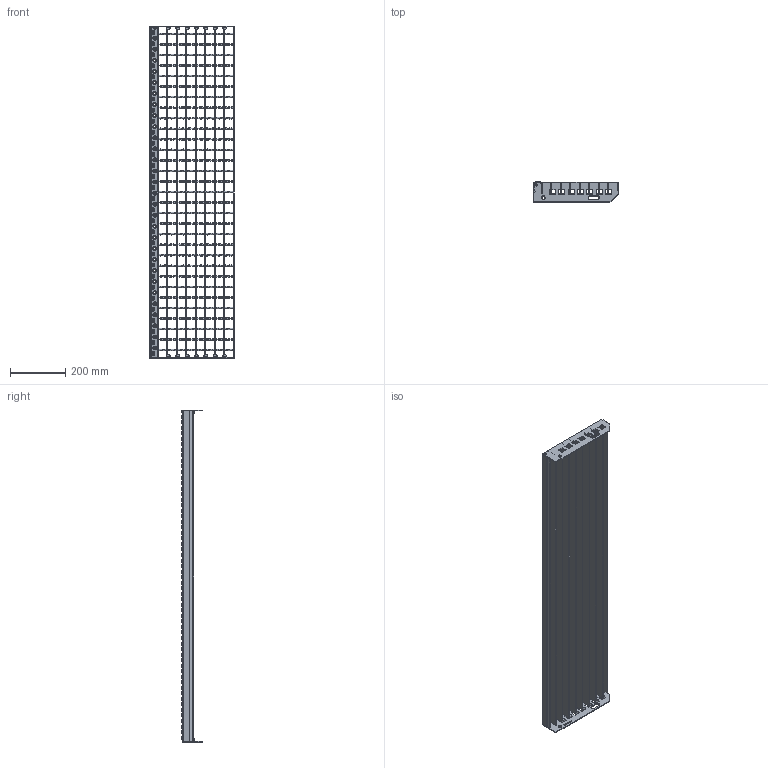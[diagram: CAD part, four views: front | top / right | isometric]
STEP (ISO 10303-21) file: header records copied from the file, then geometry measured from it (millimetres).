
FILE_DESCRIPTION(/* description */ ('','CAx-IF Rec.Pracs.---Representation and Presentation of Product Manufacturing Information (PMI)---3.8---2014-02-18'),/* implementation_level */ '2;1');
FILE_NAME(/* name */ 'C:\Users\phaverkotte\Desktop\Lager STEP\SP-Stufen\SP 340-34 38-3\SP 340-34 38-3 1200mm x305mm.stp',/* time_stamp */ '2018-03-24T11:59:10+01:00',/* author */ ('phaverkotte'),/* organization */ (''),/* preprocessor_version */ 'ST-DEVELOPER v16.13',/* originating_system */ 'Autodesk Inventor 2018',/* authorisation */ '');
FILE_SCHEMA (('AP242_MANAGED_MODEL_BASED_3D_ENGINEERING_MIM_LF { 1 0 10303 442 1 1 4 }'));
Length unit declared in the file: millimetre
Products named in the file (8): Stufe SP; Seitenplatte ausgeklinkt links; Seitenplatte 240 ausgeklinkt extern rechts; Schod nášlap; SP Rošt schodu; Nosny pas; Krouceny drat; Hinteres Flach
Assembly tree (44 placements, depth 3):
  Stufe SP
    Seitenplatte ausgeklinkt links
    Seitenplatte 240 ausgeklinkt extern rechts
    Schod nášlap
    SP Rošt schodu
      Nosny pas  x8
      Krouceny drat  x31
      Hinteres Flach
Bounding box: 305.64 x 72.75 x 1200 mm (x, y, z)
Volume: 1663127.9 mm3; surface area: 1279942.6 mm2
Topology: 43 solids, 43 shells, 1490 faces, 4018 edges, 2631 vertices
Faces by surface type: plane 698, cylinder 400, cone 180, bspline 152, torus 60
Full cylindrical faces by diameter (mm): 8 x2, 13 x2
Entity records: 30446 total; most frequent: CARTESIAN_POINT 9784, DIRECTION 4222, ORIENTED_EDGE 3828, EDGE_CURVE 1914, AXIS2_PLACEMENT_3D 1521, VERTEX_POINT 1349, EDGE_LOOP 1249, LINE 1180
